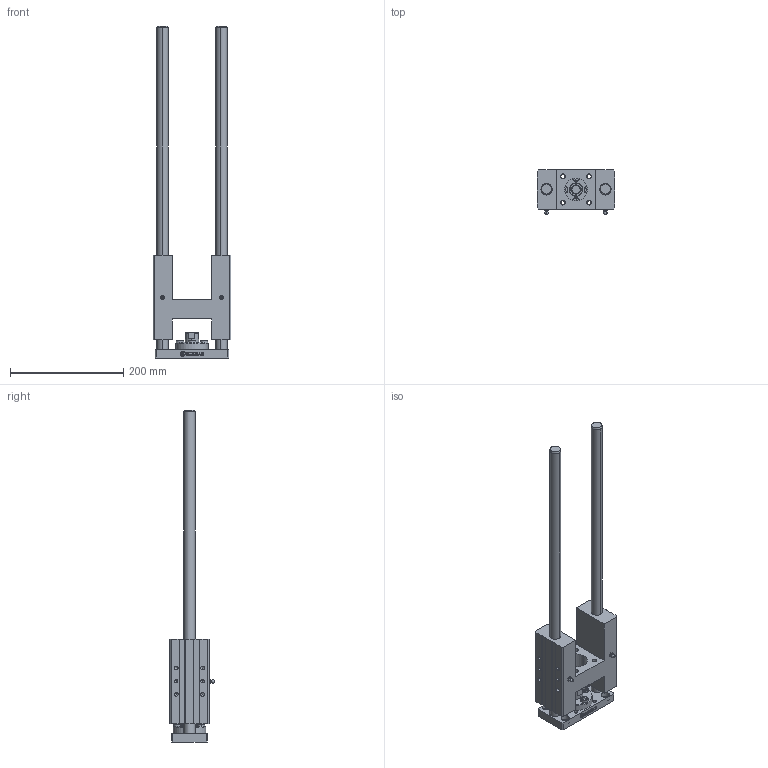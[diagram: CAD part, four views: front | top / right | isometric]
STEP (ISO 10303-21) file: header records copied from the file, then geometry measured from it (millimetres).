
FILE_DESCRIPTION (( 'STEP AP214' ), '1' );
FILE_NAME ('WHCR-050-0400 (3D).STEP', '2018-11-28T13:43:48', ( 'Hidtek' ), ( '' ), 'SwSTEP 2.0', 'SolidWorks 2016', '' );
FILE_SCHEMA (( 'AUTOMOTIVE_DESIGN' ));
Length unit declared in the file: millimetre
Products named in the file (4): Group2^WHCR-050-0400 (3D); Group3^WHCR-050-0400 (3D); WHCR-050-0400 (3D); Group1^WHCR-050-0400 (3D)
Assembly tree (3 placements, depth 2):
  WHCR-050-0400 (3D)
    Group1^WHCR-050-0400 (3D)
    Group2^WHCR-050-0400 (3D)
    Group3^WHCR-050-0400 (3D)
Bounding box: 137 x 79.05 x 587 mm (x, y, z)
Volume: 1204424.7 mm3; surface area: 226959.6 mm2
Topology: 14 solids, 14 shells, 668 faces, 1667 edges, 1044 vertices
Faces by surface type: plane 352, cylinder 142, bspline 94, cone 80
Entity records: 26060 total; most frequent: CARTESIAN_POINT 8855, ORIENTED_EDGE 3206, DIRECTION 2961, EDGE_CURVE 1603, VERTEX_POINT 1044, VECTOR 1037, LINE 1037, AXIS2_PLACEMENT_3D 962
